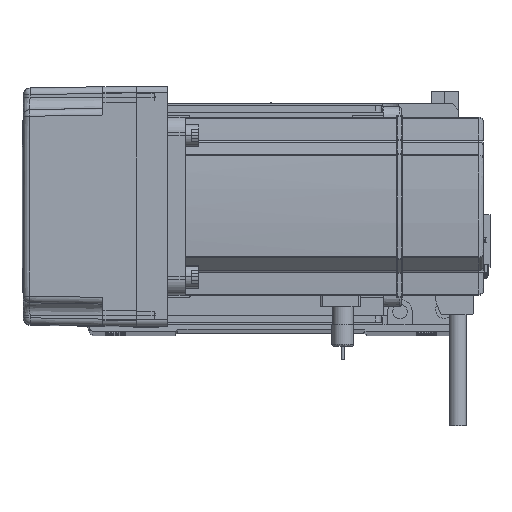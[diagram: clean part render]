
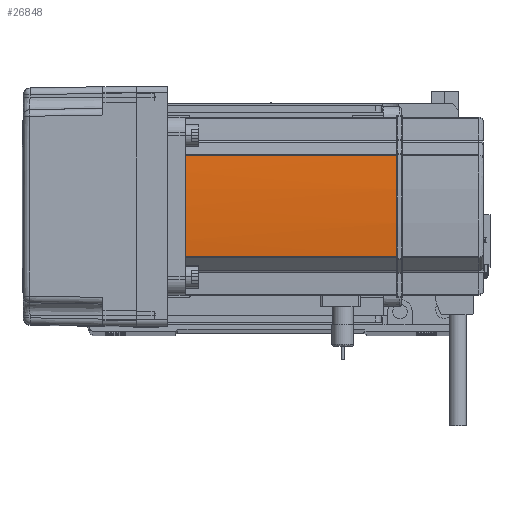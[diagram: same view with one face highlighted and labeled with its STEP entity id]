
A CAD part, top view. The second image highlights one B-rep face of the part: STEP entity #26848.
In plain terms, the highlighted cylindrical face has radius 270 mm (diameter 540 mm), a partial arc.
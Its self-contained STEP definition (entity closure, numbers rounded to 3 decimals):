
#443 = AXIS2_PLACEMENT_3D ( 'NONE', #1156, #36979, #10351 ) ;
#1156 = CARTESIAN_POINT ( 'NONE',  ( -230., 0., 134. ) ) ;
#2451 = ORIENTED_EDGE ( 'NONE', *, *, #32628, .T. ) ;
#2745 = VERTEX_POINT ( 'NONE', #35018 ) ;
#5729 = B_SPLINE_CURVE_WITH_KNOTS ( 'NONE', 3,
 ( #37784, #51133, #10769, #20140 ),
 .UNSPECIFIED., .F., .F.,
 ( 4, 4 ),
 ( 0., 1. ),
 .UNSPECIFIED. ) ;
#6473 = LINE ( 'NONE', #17801, #7190 ) ;
#7068 = CARTESIAN_POINT ( 'NONE',  ( 39.042, 22.724, 134. ) ) ;
#7190 = VECTOR ( 'NONE', #44882, 1000. ) ;
#9036 = VECTOR ( 'NONE', #33579, 1000. ) ;
#9259 = AXIS2_PLACEMENT_3D ( 'NONE', #57870, #40279, #35172 ) ;
#10010 = CIRCLE ( 'NONE', #15331, 270. ) ;
#10351 = DIRECTION ( 'NONE',  ( -1., 0., 0. ) ) ;
#10769 = CARTESIAN_POINT ( 'NONE',  ( 40., 0.042, 134. ) ) ;
#11698 = EDGE_CURVE ( 'NONE', #23452, #26202, #6473, .T. ) ;
#12422 = DIRECTION ( 'NONE',  ( 0., 0., -1. ) ) ;
#12951 = VERTEX_POINT ( 'NONE', #54516 ) ;
#15331 = AXIS2_PLACEMENT_3D ( 'NONE', #21438, #12422, #56709 ) ;
#17567 = CARTESIAN_POINT ( 'NONE',  ( 39.042, -22.724, 134. ) ) ;
#17801 = CARTESIAN_POINT ( 'NONE',  ( 39.042, 22.724, 58. ) ) ;
#18721 = CIRCLE ( 'NONE', #9259, 270. ) ;
#20140 = CARTESIAN_POINT ( 'NONE',  ( 40., 0.127, 134. ) ) ;
#20362 = CIRCLE ( 'NONE', #443, 270. ) ;
#21438 = CARTESIAN_POINT ( 'NONE',  ( -230., 0., 134. ) ) ;
#21885 = ORIENTED_EDGE ( 'NONE', *, *, #27351, .F. ) ;
#23452 = VERTEX_POINT ( 'NONE', #38956 ) ;
#25702 = ORIENTED_EDGE ( 'NONE', *, *, #31759, .T. ) ;
#25905 = CARTESIAN_POINT ( 'NONE',  ( 40., -0.127, 134. ) ) ;
#26024 = DIRECTION ( 'NONE',  ( -1., 0., 0. ) ) ;
#26202 = VERTEX_POINT ( 'NONE', #7068 ) ;
#26572 = ORIENTED_EDGE ( 'NONE', *, *, #11698, .T. ) ;
#26848 = ADVANCED_FACE ( 'NONE', ( #40506 ), #27912, .T. ) ;
#27351 = EDGE_CURVE ( 'NONE', #23452, #2745, #18721, .T. ) ;
#27912 = CYLINDRICAL_SURFACE ( 'NONE', #47543, 270. ) ;
#31460 = LINE ( 'NONE', #47089, #9036 ) ;
#31759 = EDGE_CURVE ( 'NONE', #58085, #57103, #20362, .T. ) ;
#32628 = EDGE_CURVE ( 'NONE', #57103, #2745, #31460, .T. ) ;
#33579 = DIRECTION ( 'NONE',  ( 0., 0., -1. ) ) ;
#35018 = CARTESIAN_POINT ( 'NONE',  ( 39.042, -22.724, 39. ) ) ;
#35172 = DIRECTION ( 'NONE',  ( -1., 0., 0. ) ) ;
#35392 = EDGE_LOOP ( 'NONE', ( #2451, #21885, #26572, #48083, #50099, #25702 ) ) ;
#36979 = DIRECTION ( 'NONE',  ( 0., 0., -1. ) ) ;
#37699 = EDGE_CURVE ( 'NONE', #26202, #12951, #10010, .T. ) ;
#37784 = CARTESIAN_POINT ( 'NONE',  ( 40., -0.127, 134. ) ) ;
#38956 = CARTESIAN_POINT ( 'NONE',  ( 39.042, 22.724, 39. ) ) ;
#40279 = DIRECTION ( 'NONE',  ( 0., 0., -1. ) ) ;
#40506 = FACE_OUTER_BOUND ( 'NONE', #35392, .T. ) ;
#41225 = EDGE_CURVE ( 'NONE', #58085, #12951, #5729, .T. ) ;
#44882 = DIRECTION ( 'NONE',  ( 0., 0., 1. ) ) ;
#47089 = CARTESIAN_POINT ( 'NONE',  ( 39.042, -22.724, 58. ) ) ;
#47543 = AXIS2_PLACEMENT_3D ( 'NONE', #57714, #48547, #26024 ) ;
#48083 = ORIENTED_EDGE ( 'NONE', *, *, #37699, .T. ) ;
#48547 = DIRECTION ( 'NONE',  ( 0., 0., -1. ) ) ;
#50099 = ORIENTED_EDGE ( 'NONE', *, *, #41225, .F. ) ;
#51133 = CARTESIAN_POINT ( 'NONE',  ( 40., -0.042, 134. ) ) ;
#54516 = CARTESIAN_POINT ( 'NONE',  ( 40., 0.127, 134. ) ) ;
#56709 = DIRECTION ( 'NONE',  ( -1., 0., 0. ) ) ;
#57103 = VERTEX_POINT ( 'NONE', #17567 ) ;
#57714 = CARTESIAN_POINT ( 'NONE',  ( -230., 0., 58. ) ) ;
#57870 = CARTESIAN_POINT ( 'NONE',  ( -230., 0., 39. ) ) ;
#58085 = VERTEX_POINT ( 'NONE', #25905 ) ;
